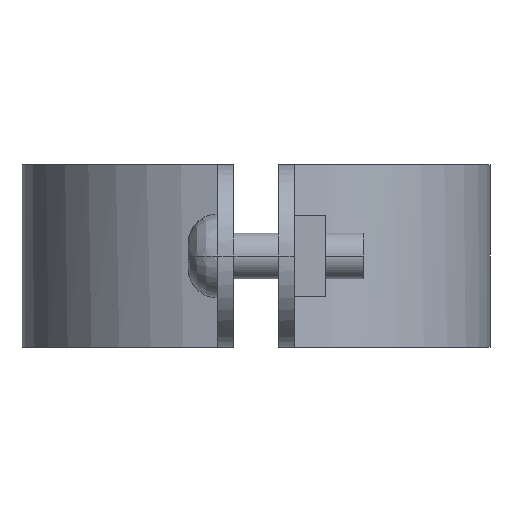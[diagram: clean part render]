
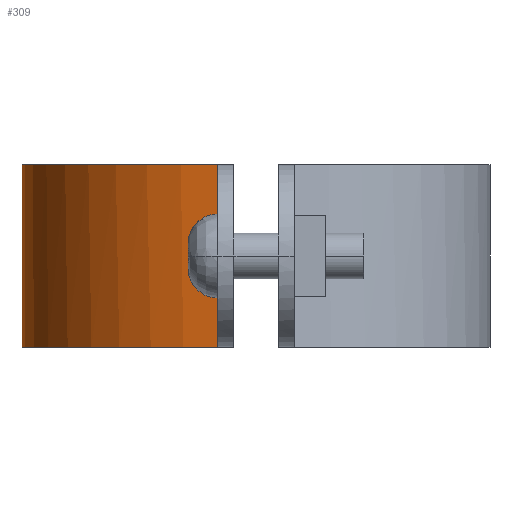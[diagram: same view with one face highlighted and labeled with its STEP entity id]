
A CAD part, left-side view. The second image highlights one B-rep face of the part: STEP entity #309.
In plain terms, the highlighted free-form (B-spline) face has degree [3, 1] with [4, 2] control points.
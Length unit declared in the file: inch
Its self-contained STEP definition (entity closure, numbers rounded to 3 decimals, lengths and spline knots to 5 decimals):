
#309=ADVANCED_FACE('',(#585),#586,.T.);
#585=FACE_OUTER_BOUND('',#1309,.T.);
#586=B_SPLINE_SURFACE_WITH_KNOTS('',3,1,((#1310,#1311),(#1312,#1313),(#1314,#1315),(#1316,#1317)),.UNSPECIFIED.,.F.,.F.,.F.,(4,4),(2,2),(-1.0,-0.0),(0.0,1.25),.UNSPECIFIED.);
#1309=EDGE_LOOP('',(#1923,#1924,#1925,#1926));
#1310=CARTESIAN_POINT('',(2.31495,3.26655,0.0));
#1311=CARTESIAN_POINT('',(2.31495,3.26655,1.25));
#1312=CARTESIAN_POINT('',(1.52881,3.26655,0.0));
#1313=CARTESIAN_POINT('',(1.52881,3.26655,1.25));
#1314=CARTESIAN_POINT('',(0.85821,2.69752,0.0));
#1315=CARTESIAN_POINT('',(0.85821,2.69752,1.25));
#1316=CARTESIAN_POINT('',(0.73023,1.92184,0.0));
#1317=CARTESIAN_POINT('',(0.73023,1.92184,1.25));
#1923=ORIENTED_EDGE('',*,*,#2217,.T.);
#1924=ORIENTED_EDGE('',*,*,#2159,.T.);
#1925=ORIENTED_EDGE('',*,*,#2212,.T.);
#1926=ORIENTED_EDGE('',*,*,#2116,.F.);
#2116=EDGE_CURVE('',#2485,#2487,#2488,.T.);
#2159=EDGE_CURVE('',#2541,#2543,#2545,.T.);
#2212=EDGE_CURVE('',#2543,#2487,#2613,.T.);
#2217=EDGE_CURVE('',#2485,#2541,#2618,.T.);
#2485=VERTEX_POINT('',#3103);
#2487=VERTEX_POINT('',#3106);
#2488=LINE('',#3107,#3108);
#2541=VERTEX_POINT('',#3208);
#2543=VERTEX_POINT('',#3211);
#2545=LINE('',#3214,#3215);
#2613=B_SPLINE_CURVE_WITH_KNOTS('',3,(#3390,#3391,#3392,#3393),.UNSPECIFIED.,.F.,.F.,(4,4),(0.0,1.0),.UNSPECIFIED.);
#2618=B_SPLINE_CURVE_WITH_KNOTS('',3,(#3402,#3403,#3404,#3405),.UNSPECIFIED.,.F.,.F.,(4,4),(-1.0,-0.0),.UNSPECIFIED.);
#3103=CARTESIAN_POINT('',(2.31495,3.26655,0.00011));
#3106=CARTESIAN_POINT('',(2.31495,3.26655,1.24991));
#3107=CARTESIAN_POINT('',(2.31495,3.26655,0.0));
#3108=VECTOR('',#3539,1.0);
#3208=CARTESIAN_POINT('',(0.73023,1.92184,0.00011));
#3211=CARTESIAN_POINT('',(0.73023,1.92184,1.24991));
#3214=CARTESIAN_POINT('',(0.73023,1.92184,0.0));
#3215=VECTOR('',#3565,1.0);
#3390=CARTESIAN_POINT('',(0.73023,1.92184,1.24991));
#3391=CARTESIAN_POINT('',(0.85821,2.69752,1.24991));
#3392=CARTESIAN_POINT('',(1.52881,3.26655,1.24991));
#3393=CARTESIAN_POINT('',(2.31495,3.26655,1.24991));
#3402=CARTESIAN_POINT('',(2.31495,3.26655,0.00011));
#3403=CARTESIAN_POINT('',(1.52881,3.26655,0.00011));
#3404=CARTESIAN_POINT('',(0.85821,2.69752,0.00011));
#3405=CARTESIAN_POINT('',(0.73023,1.92184,0.00011));
#3539=DIRECTION('',(0.0,0.0,1.0));
#3565=DIRECTION('',(0.0,0.0,1.0));
